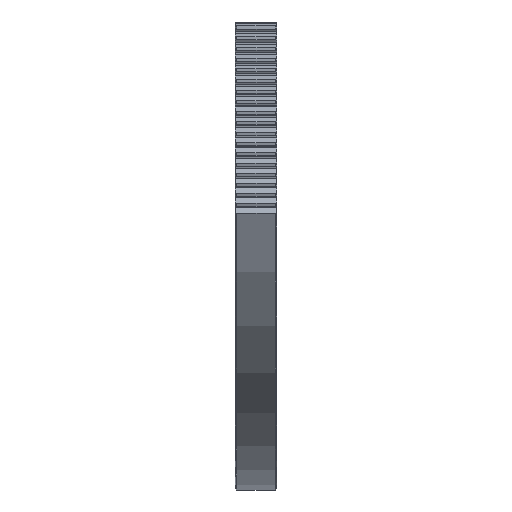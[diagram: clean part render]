
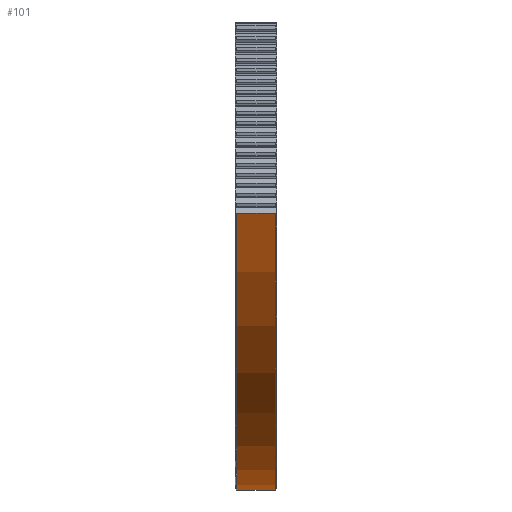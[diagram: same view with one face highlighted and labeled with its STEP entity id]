
A CAD part, left-side view. The second image highlights one B-rep face of the part: STEP entity #101.
In plain terms, the highlighted cylindrical face has radius 139 mm (diameter 278 mm), a partial arc.
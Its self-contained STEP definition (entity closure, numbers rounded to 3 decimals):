
#101 = ADVANCED_FACE( '', ( #284 ), #285, .T. );
#284 = FACE_OUTER_BOUND( '', #576, .T. );
#285 = CYLINDRICAL_SURFACE( '', #577, 139. );
#576 = EDGE_LOOP( '', ( #1130, #1131, #1132, #1133 ) );
#577 = AXIS2_PLACEMENT_3D( '', #1134, #1135, #1136 );
#1130 = ORIENTED_EDGE( '', *, *, #2180, .F. );
#1131 = ORIENTED_EDGE( '', *, *, #1987, .T. );
#1132 = ORIENTED_EDGE( '', *, *, #2172, .T. );
#1133 = ORIENTED_EDGE( '', *, *, #1976, .T. );
#1134 = CARTESIAN_POINT( '', ( 0., 0., 0. ) );
#1135 = DIRECTION( '', ( 0., 1., 0. ) );
#1136 = DIRECTION( '', ( 0., 0., -1. ) );
#1976 = EDGE_CURVE( '', #2367, #2365, #2368, .T. );
#1987 = EDGE_CURVE( '', #2388, #2386, #2389, .F. );
#2172 = EDGE_CURVE( '', #2386, #2367, #2746, .T. );
#2180 = EDGE_CURVE( '', #2388, #2365, #2758, .T. );
#2365 = VERTEX_POINT( '', #3024 );
#2367 = VERTEX_POINT( '', #3029 );
#2368 = LINE( '', #3030, #3031 );
#2386 = VERTEX_POINT( '', #3062 );
#2388 = VERTEX_POINT( '', #3067 );
#2389 = LINE( '', #3068, #3069 );
#2746 = CIRCLE( '', #3536, 139. );
#2758 = CIRCLE( '', #3560, 139. );
#3024 = CARTESIAN_POINT( '', ( -1.5, 0.5, -138.992 ) );
#3029 = CARTESIAN_POINT( '', ( -1.5, 11.75, -138.992 ) );
#3030 = CARTESIAN_POINT( '', ( -1.5, 0., -138.992 ) );
#3031 = VECTOR( '', #4059, 1000. );
#3062 = CARTESIAN_POINT( '', ( -126.485, 11.75, -57.642 ) );
#3067 = CARTESIAN_POINT( '', ( -126.485, 0.5, -57.642 ) );
#3068 = CARTESIAN_POINT( '', ( -126.485, 0., -57.642 ) );
#3069 = VECTOR( '', #4070, 1000. );
#3536 = AXIS2_PLACEMENT_3D( '', #4436, #4437, #4438 );
#3560 = AXIS2_PLACEMENT_3D( '', #4448, #4449, #4450 );
#4059 = DIRECTION( '', ( 0., -1., 0. ) );
#4070 = DIRECTION( '', ( 0., -1., 0. ) );
#4436 = CARTESIAN_POINT( '', ( 0., 11.75, 0. ) );
#4437 = DIRECTION( '', ( 0., -1., 0. ) );
#4438 = DIRECTION( '', ( 0., 0., -1. ) );
#4448 = CARTESIAN_POINT( '', ( 0., 0.5, 0. ) );
#4449 = DIRECTION( '', ( 0., -1., 0. ) );
#4450 = DIRECTION( '', ( 0., 0., -1. ) );
